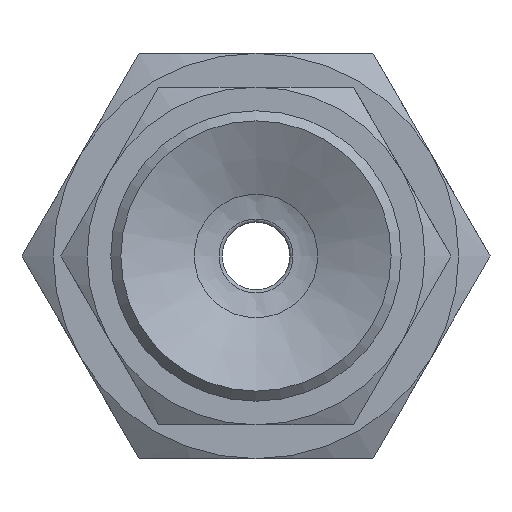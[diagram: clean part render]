
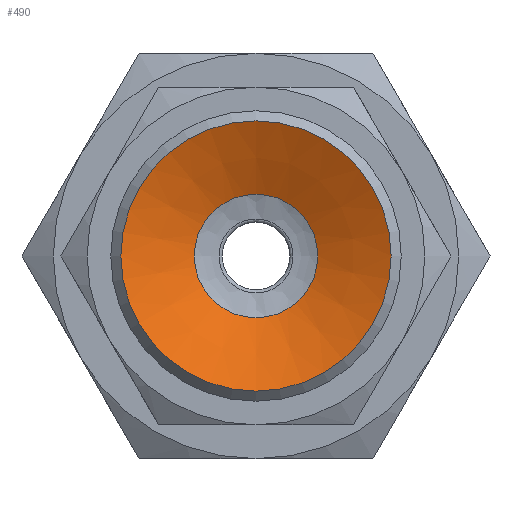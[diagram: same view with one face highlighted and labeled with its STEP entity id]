
A CAD part, front view. The second image highlights one B-rep face of the part: STEP entity #490.
In plain terms, the highlighted conical face has half-angle 65 degrees and reference radius 1.427 mm.
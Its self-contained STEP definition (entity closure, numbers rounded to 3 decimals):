
#490=ADVANCED_FACE('',(#726,#727),#728,.F.);
#726=FACE_BOUND('',#975,.T.);
#727=FACE_OUTER_BOUND('',#976,.T.);
#728=CONICAL_SURFACE('',#977,1.427,1.134);
#975=EDGE_LOOP('',(#1649));
#976=EDGE_LOOP('',(#1650));
#977=AXIS2_PLACEMENT_3D('',#1651,#1652,#1653);
#1649=ORIENTED_EDGE('',*,*,#1856,.T.);
#1650=ORIENTED_EDGE('',*,*,#1843,.T.);
#1651=CARTESIAN_POINT('',(0.0,7.096,0.));
#1652=DIRECTION('',(-0.0,-1.0,0.));
#1653=DIRECTION('',(0.0,0.,-1.0));
#1843=EDGE_CURVE('',#2130,#2130,#2131,.T.);
#1856=EDGE_CURVE('',#2156,#2156,#2157,.T.);
#2130=VERTEX_POINT('',#2778);
#2131=CIRCLE('',#2779,4.0);
#2156=VERTEX_POINT('',#2804);
#2157=CIRCLE('',#2805,1.828);
#2778=CARTESIAN_POINT('',(0.0,5.896,-4.0));
#2779=AXIS2_PLACEMENT_3D('',#3034,#3035,#3036);
#2804=CARTESIAN_POINT('',(0.0,6.909,-1.828));
#2805=AXIS2_PLACEMENT_3D('',#3073,#3074,#3075);
#3034=CARTESIAN_POINT('',(0.0,5.896,0.0));
#3035=DIRECTION('',(0.0,-1.0,0.));
#3036=DIRECTION('',(0.0,0.,-1.0));
#3073=CARTESIAN_POINT('',(0.0,6.909,0.0));
#3074=DIRECTION('',(0.0,1.0,0.));
#3075=DIRECTION('',(0.0,0.,-1.0));
